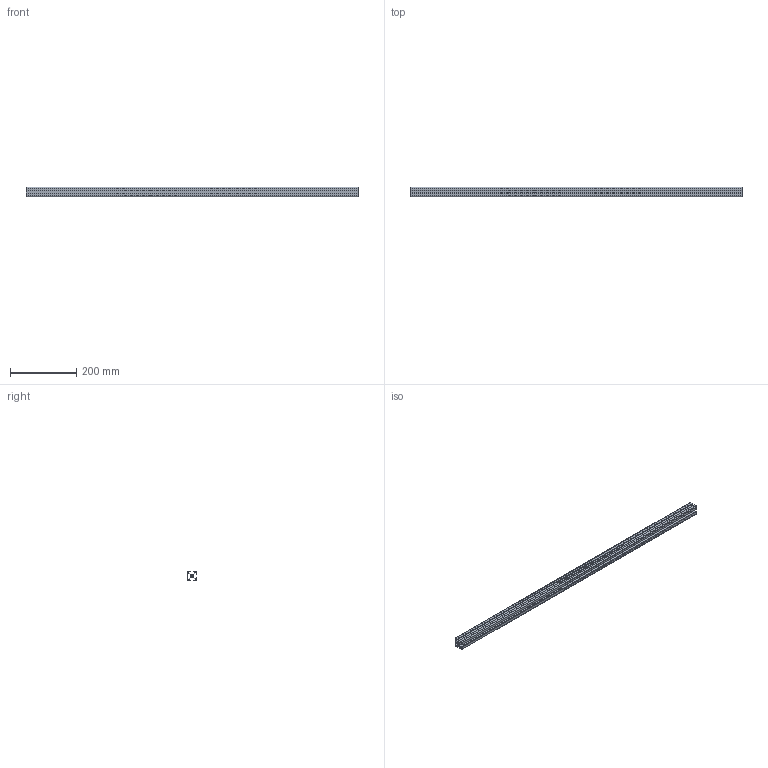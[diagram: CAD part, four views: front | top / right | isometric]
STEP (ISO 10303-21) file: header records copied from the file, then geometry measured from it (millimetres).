
FILE_DESCRIPTION (( 'STEP AP214' ), '1' );
FILE_NAME ('10415_PRO_8_30x30_1N.STEP', '2016-02-29T14:07:03', ( '' ), ( '' ), 'SwSTEP 2.0', 'SolidWorks 2015', '' );
FILE_SCHEMA (( 'AUTOMOTIVE_DESIGN' ));
Length unit declared in the file: millimetre
Products named in the file (1): 10415_PRO_8_30x30_1N
Bounding box: 1000 x 30 x 30 mm (x, y, z)
Volume: 341286.2 mm3; surface area: 284571 mm2
Topology: 1 solids, 1 shells, 76 faces, 222 edges, 148 vertices
Faces by surface type: cylinder 40, plane 36
Entity records: 2588 total; most frequent: DIRECTION 456, CARTESIAN_POINT 447, ORIENTED_EDGE 444, EDGE_CURVE 222, AXIS2_PLACEMENT_3D 157, VERTEX_POINT 148, VECTOR 142, LINE 142
